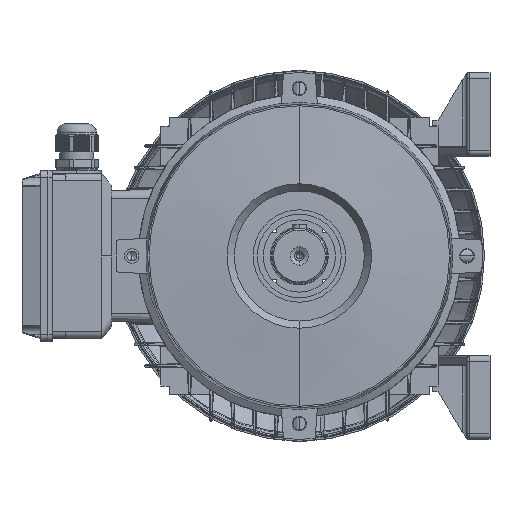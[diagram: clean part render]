
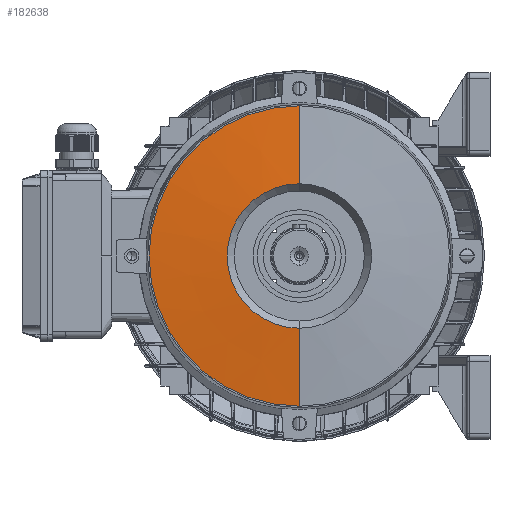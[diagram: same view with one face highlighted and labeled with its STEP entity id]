
A CAD part, left-side view. The second image highlights one B-rep face of the part: STEP entity #182638.
In plain terms, the highlighted conical face has half-angle 84.71 degrees and reference radius 104 mm.
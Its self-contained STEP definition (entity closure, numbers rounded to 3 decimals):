
#123551 = CARTESIAN_POINT ( 'NONE',  ( -8., 0., 0. ) ) ;
#123556 = CIRCLE ( 'NONE', #123598, 104. ) ;
#123596 = DIRECTION ( 'NONE',  ( 0., 0., 1. ) ) ;
#123597 = DIRECTION ( 'NONE',  ( -1., 0., 0. ) ) ;
#123598 = AXIS2_PLACEMENT_3D ( 'NONE', #123551, #123597, #123596 ) ;
#123599 = CARTESIAN_POINT ( 'NONE',  ( -13., 0., -50. ) ) ;
#123611 = CARTESIAN_POINT ( 'NONE',  ( -8., 0., -104. ) ) ;
#123623 = CARTESIAN_POINT ( 'NONE',  ( -13., 0., 50. ) ) ;
#123690 = DIRECTION ( 'NONE',  ( 0.092, 0., -0.996 ) ) ;
#123691 = VECTOR ( 'NONE', #123690, 1000. ) ;
#123692 = CARTESIAN_POINT ( 'NONE',  ( -8., 0., -104. ) ) ;
#123695 = DIRECTION ( 'NONE',  ( 0., 0., 1. ) ) ;
#123696 = DIRECTION ( 'NONE',  ( -1., 0., 0. ) ) ;
#123697 = CARTESIAN_POINT ( 'NONE',  ( -13., 0., 0. ) ) ;
#123698 = LINE ( 'NONE', #123692, #123691 ) ;
#123702 = DIRECTION ( 'NONE',  ( 0.092, 0., 0.996 ) ) ;
#123703 = VECTOR ( 'NONE', #123702, 1000. ) ;
#123704 = CARTESIAN_POINT ( 'NONE',  ( -8., 0., 104. ) ) ;
#123705 = LINE ( 'NONE', #123704, #123703 ) ;
#123708 = DIRECTION ( 'NONE',  ( 0., 0., -1. ) ) ;
#123709 = DIRECTION ( 'NONE',  ( 1., 0., 0. ) ) ;
#123710 = CONICAL_SURFACE ( 'NONE', #123716, 104., 1.478 ) ;
#123711 = AXIS2_PLACEMENT_3D ( 'NONE', #123697, #123696, #123695 ) ;
#123712 = FACE_OUTER_BOUND ( 'NONE', #182671, .T. ) ;
#123713 = CIRCLE ( 'NONE', #123711, 50. ) ;
#123715 = CARTESIAN_POINT ( 'NONE',  ( -8., 0., 0. ) ) ;
#123716 = AXIS2_PLACEMENT_3D ( 'NONE', #123715, #123709, #123708 ) ;
#123745 = CARTESIAN_POINT ( 'NONE',  ( -8., 0., 104. ) ) ;
#182530 = EDGE_CURVE ( 'NONE', #182665, #182571, #123556, .T. ) ;
#182531 = VERTEX_POINT ( 'NONE', #123599 ) ;
#182571 = VERTEX_POINT ( 'NONE', #123611 ) ;
#182572 = VERTEX_POINT ( 'NONE', #123623 ) ;
#182638 = ADVANCED_FACE ( 'NONE', ( #123712 ), #123710, .T. ) ;
#182640 = ORIENTED_EDGE ( 'NONE', *, *, #182643, .T. ) ;
#182642 = ORIENTED_EDGE ( 'NONE', *, *, #182644, .F. ) ;
#182643 = EDGE_CURVE ( 'NONE', #182572, #182665, #123705, .T. ) ;
#182644 = EDGE_CURVE ( 'NONE', #182572, #182531, #123713, .T. ) ;
#182645 = EDGE_CURVE ( 'NONE', #182531, #182571, #123698, .T. ) ;
#182648 = ORIENTED_EDGE ( 'NONE', *, *, #182645, .F. ) ;
#182650 = ORIENTED_EDGE ( 'NONE', *, *, #182530, .T. ) ;
#182665 = VERTEX_POINT ( 'NONE', #123745 ) ;
#182671 = EDGE_LOOP ( 'NONE', ( #182642, #182640, #182650, #182648 ) ) ;
